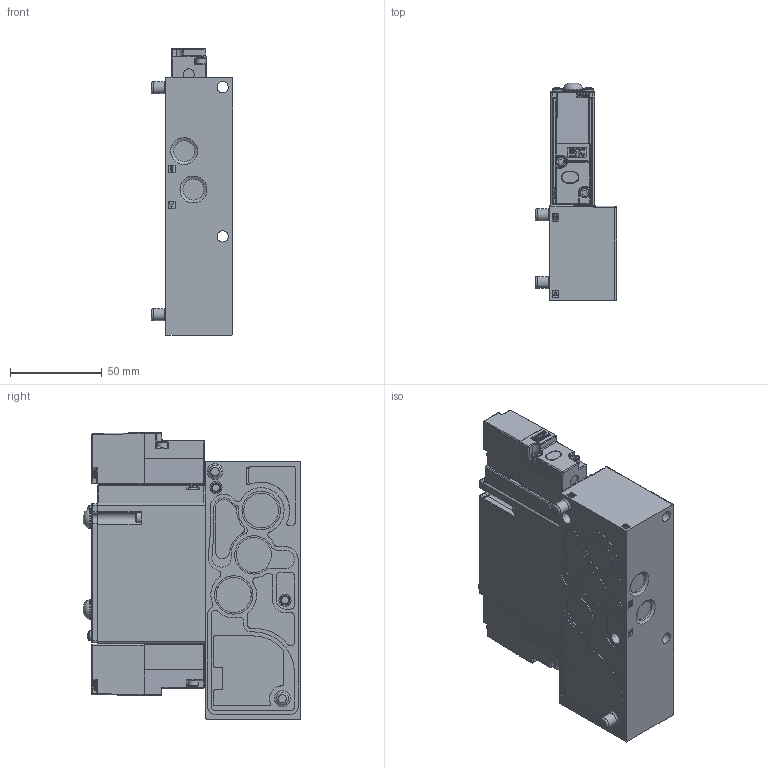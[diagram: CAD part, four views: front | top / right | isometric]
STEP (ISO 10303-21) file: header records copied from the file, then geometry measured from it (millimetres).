
FILE_DESCRIPTION (( 'STEP AP214' ), '1' );
FILE_NAME ('92A-BAA-B4K-DM-DXXP-1DM.STEP', '2019-07-05T15:23:14', ( 'user' ), ( '' ), 'SwSTEP 2.0', 'SolidWorks 2014', '' );
FILE_SCHEMA (( 'AUTOMOTIVE_DESIGN' ));
Length unit declared in the file: millimetre
Products named in the file (6): 92A-BAA-B4K-DM-DXXP-1DM; 92-PILOT-DM3; 92-BODY-BAA; 92-OVERRIDE-1; 92-OPERATOR-DXXP-YDM; 92-BASE-B4J
Assembly tree (8 placements, depth 2):
  92A-BAA-B4K-DM-DXXP-1DM
    92-BASE-B4J
    92-OPERATOR-DXXP-YDM  x2
    92-OVERRIDE-1  x2
    92-BODY-BAA
    92-PILOT-DM3  x2
Bounding box: 44.5 x 118.6 x 156.5 mm (x, y, z)
Volume: 438511.7 mm3; surface area: 92562.6 mm2
Topology: 37 solids, 37 shells, 3046 faces, 7833 edges, 5084 vertices
Faces by surface type: plane 1700, cylinder 851, cone 275, bspline 107, torus 60, sphere 53
Full cylindrical faces by diameter (mm): 0.01 x4, 0.72 x2, 0.85 x2, 0.95 x4, 1 x2, 2 x4, 2.2 x2, 2.4 x6, 2.5 x2, 2.6 x4, 2.7 x2, 2.79 x4, 3 x10, 3.15 x4, 3.25 x4, 3.3 x4, 3.35 x4, 4.775 x4, 5 x36, 5.1 x2, 5.25 x2, 5.5 x10, 5.6 x2, 6.185 x2, 6.22 x2, 6.6 x2, 6.8 x4, 6.92 x2, 7 x2, 8.5 x2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
Entity records: 102022 total; most frequent: CARTESIAN_POINT 21726, ORIENTED_EDGE 11250, DIRECTION 11242, EDGE_CURVE 5625, AXIS2_PLACEMENT_3D 3815, VERTEX_POINT 3777, VECTOR 3612, LINE 3612
